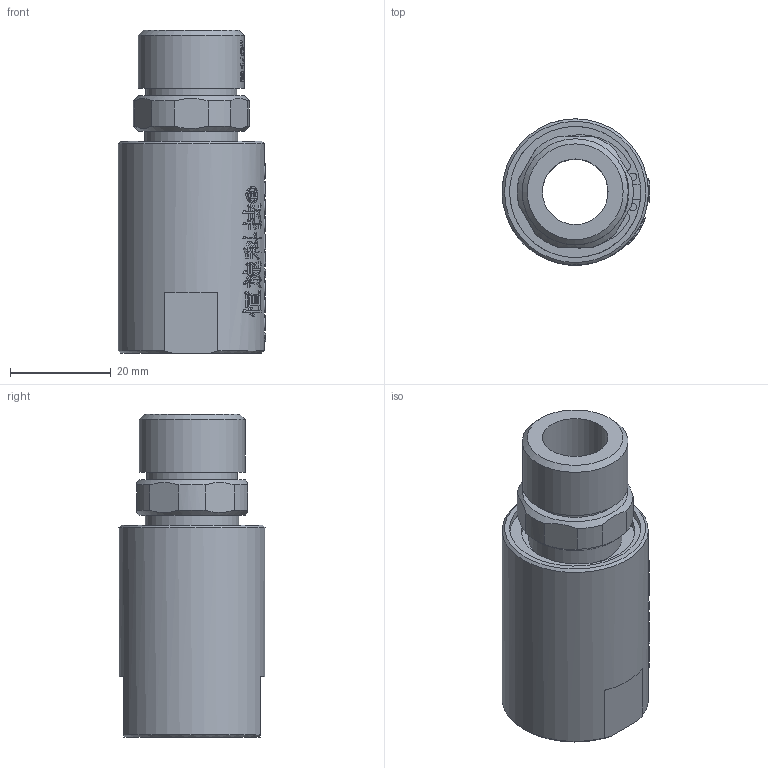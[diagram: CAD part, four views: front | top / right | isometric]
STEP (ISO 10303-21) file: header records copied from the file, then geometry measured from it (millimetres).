
FILE_DESCRIPTION(/* description */ (''),/* implementation_level */ '2;1');
FILE_NAME(/* name */ 'HYK0104(RH)-3D模型.stp',/* time_stamp */ '2025-07-09T09:09:13+08:00',/* author */ (''),/* organization */ (''),/* preprocessor_version */ 'ST-DEVELOPER v16.7',/* originating_system */ 'SIEMENS PLM Software NX 12.0',/* authorisation */ '');
FILE_SCHEMA (('AUTOMOTIVE_DESIGN { 1 0 10303 214 3 1 1 1 }'));
Length unit declared in the file: millimetre
Products named in the file (1): Admi1300D6723vv5
Bounding box: 29.3 x 28.98 x 64.1 mm (x, y, z)
Volume: 24532.1 mm3; surface area: 9979.2 mm2
Topology: 1 solids, 1 shells, 864 faces, 2384 edges, 1589 vertices
Faces by surface type: extrusion 464, plane 315, cylinder 41, bspline 38, cone 6
Full cylindrical faces by diameter (mm): 1.5 x2, 13 x1, 18 x1, 18.5 x2, 21 x1, 26 x1, 29 x1
Entity records: 35393 total; most frequent: CARTESIAN_POINT 16842, ORIENTED_EDGE 4732, EDGE_CURVE 2366, B_SPLINE_CURVE_WITH_KNOTS 2262, DIRECTION 1988, VERTEX_POINT 1584, EDGE_LOOP 946, ADVANCED_FACE 864
